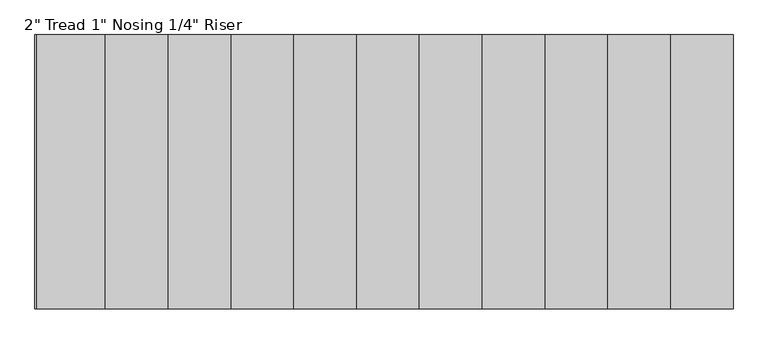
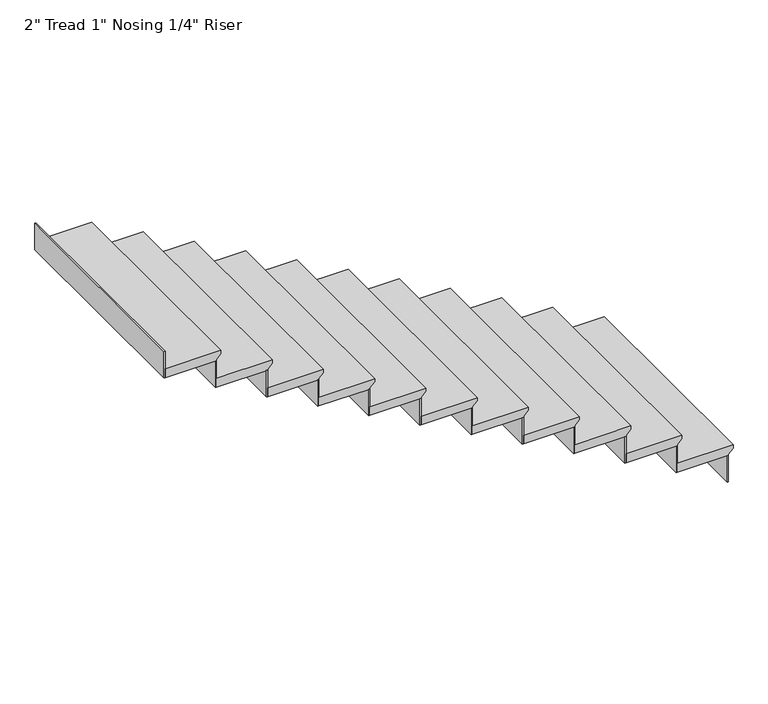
"""IFC4 building model written with IfcOpenShell, lengths in millimetres: stair flight geometry."""

import ifcopenshell
import ifcopenshell.guid

model = None  # the IFC model being written
_history = None  # IfcOwnerHistory: only IFC2X3 demands one
_inside = {}  # id of a spatial element -> (the spatial element, [elements in it])
_under = {}  # id of a project, library or spatial element -> (it, [spatial elements below it])
_declared = {}  # id of a project -> (the project, [libraries it declares])
_typed = {}  # id of a type object -> (the type object, [elements of that type])
_made_of = {}  # id of a material, layer set ... -> (it, [elements and type objects made of it])


def new_model(schema):
    """Start an empty IFC model of exactly this schema.

    Asked for "IFC4X3", IfcOpenShell would pick the latest addendum, in which some entities
    have other attributes; the version numbers below select the first issue.
    IFC2X3 requires an IfcOwnerHistory on every rooted entity: one is made here for all.
    """
    global model, _history
    if schema == "IFC4X3":
        model = ifcopenshell.file(schema_version=(4, 3, 0, 0))
    else:
        model = ifcopenshell.file(schema=schema)
    _inside.clear()
    _under.clear()
    _declared.clear()
    _typed.clear()
    _made_of.clear()
    _history = None
    if model.schema == "IFC2X3":
        org = make("IfcOrganization", Name="unknown")
        user = make(
            "IfcPersonAndOrganization",
            ThePerson=make("IfcPerson", FamilyName="unknown"),
            TheOrganization=org,
        )
        app = make(
            "IfcApplication",
            ApplicationDeveloper=org,
            Version="unknown",
            ApplicationFullName="unknown",
            ApplicationIdentifier="unknown",
        )
        _history = make(
            "IfcOwnerHistory",
            OwningUser=user,
            OwningApplication=app,
            ChangeAction="ADDED",
            CreationDate=0,
        )
    return model


def make(cls, **values):
    """One entity of the class cls with the attributes given. An attribute that is None is left unset."""
    return model.create_entity(
        cls, **{name: value for name, value in values.items() if value is not None}
    )


def rooted(cls, **values):
    """An entity with a GlobalId (a new one), such as an element, a storey or a relation."""
    return make(cls, GlobalId=ifcopenshell.guid.new(), OwnerHistory=_history, **values)


def si_unit(unit_type, name, prefix=None):
    """IfcSIUnit, for example si_unit("LENGTHUNIT", "METRE", prefix="MILLI")."""
    return make("IfcSIUnit", UnitType=unit_type, Prefix=prefix, Name=name)


def assignment(units):
    """IfcUnitAssignment: the units of a project."""
    return None if units is None else make("IfcUnitAssignment", Units=units)


def point(xyz):
    """IfcCartesianPoint."""
    return None if xyz is None else make("IfcCartesianPoint", Coordinates=xyz)


def direction(xyz):
    """IfcDirection."""
    return None if xyz is None else make("IfcDirection", DirectionRatios=xyz)


def frame(location, z_axis=None, x_axis=None):
    """IfcAxis2Placement3D, a coordinate frame: its origin and axes. An axis left out is left unset."""
    return make(
        "IfcAxis2Placement3D",
        Location=point(location),
        Axis=direction(z_axis),
        RefDirection=direction(x_axis),
    )


def origin():
    """The frame at (0, 0, 0) with its axes left unset."""
    return frame((0.0, 0.0, 0.0))


def place(relative_to, where):
    """IfcLocalPlacement: puts the frame where relative to a parent placement (None: the world)."""
    return make(
        "IfcLocalPlacement", PlacementRelTo=relative_to, RelativePlacement=where
    )


def context(
    kind, dimensions, precision=None, world=None, true_north=None, identifier=None
):
    """IfcGeometricRepresentationContext, for example the 3D "Model" context."""
    return make(
        "IfcGeometricRepresentationContext",
        ContextIdentifier=identifier,
        ContextType=kind,
        CoordinateSpaceDimension=dimensions,
        Precision=precision,
        WorldCoordinateSystem=world,
        TrueNorth=true_north,
    )


def project(units=None, contexts=None):
    """IfcProject with its units and contexts."""
    return rooted(
        "IfcProject",
        Name="project",
        RepresentationContexts=contexts,
        UnitsInContext=assignment(units),
    )


def spatial(cls, under=None, at=None, **own):
    """A site, building, storey or space (cls), placed at a placement, below another one or the project."""
    s = rooted(cls, ObjectPlacement=at, **own)
    if under is not None:
        _under.setdefault(under.id(), (under, []))[1].append(s)
    return s


def polyline(points):
    """IfcPolyline through the points."""
    return make("IfcPolyline", Points=[point(p) for p in points])


def outline(outer, holes=None, kind="AREA"):
    """IfcArbitraryClosedProfileDef: a profile drawn as a closed curve; with holes, ...WithVoids."""
    if holes is None:
        return make("IfcArbitraryClosedProfileDef", ProfileType=kind, OuterCurve=outer)
    return make(
        "IfcArbitraryProfileDefWithVoids",
        ProfileType=kind,
        OuterCurve=outer,
        InnerCurves=holes,
    )


def extrude(swept, where, along, depth):
    """IfcExtrudedAreaSolid: the profile swept, set in the frame where, extruded along a direction by depth."""
    return make(
        "IfcExtrudedAreaSolid",
        SweptArea=swept,
        Position=where,
        ExtrudedDirection=direction(along),
        Depth=depth,
    )


def shape(context_of_items, identifier, shape_type, items):
    """IfcShapeRepresentation: the items that make up one representation, for example the "Body"."""
    return make(
        "IfcShapeRepresentation",
        ContextOfItems=context_of_items,
        RepresentationIdentifier=identifier,
        RepresentationType=shape_type,
        Items=items,
    )


def source(mapping_origin, context_of_items, identifier, shape_type, items):
    """IfcRepresentationMap: a shape defined once, which mapped items show again and again."""
    return make(
        "IfcRepresentationMap",
        MappingOrigin=mapping_origin,
        MappedRepresentation=shape(context_of_items, identifier, shape_type, items),
    )


def transform(
    local_origin,
    x_axis=None,
    y_axis=None,
    z_axis=None,
    scale=None,
    scale2=None,
    scale3=None,
    uniform=True,
):
    """IfcCartesianTransformationOperator3D, or its non-uniform kind. x_axis, y_axis, z_axis: its Axis1, 2, 3."""
    if uniform:
        return make(
            "IfcCartesianTransformationOperator3D",
            Axis1=direction(x_axis),
            Axis2=direction(y_axis),
            LocalOrigin=point(local_origin),
            Scale=scale,
            Axis3=direction(z_axis),
        )
    return make(
        "IfcCartesianTransformationOperator3DnonUniform",
        Axis1=direction(x_axis),
        Axis2=direction(y_axis),
        LocalOrigin=point(local_origin),
        Scale=scale,
        Axis3=direction(z_axis),
        Scale2=scale2,
        Scale3=scale3,
    )


def mapped(mapping_source, mapping_target):
    """IfcMappedItem: shows the shape of a source again, moved by a transform."""
    return make(
        "IfcMappedItem", MappingSource=mapping_source, MappingTarget=mapping_target
    )


def made_of(thing, what):
    """Note that an element or type object is made of a material, layer set ...; save() writes the relation."""
    if what is not None:
        _made_of.setdefault(what.id(), (what, []))[1].append(thing)
    return thing


def element(
    cls,
    number,
    at=None,
    inside=None,
    cuts=None,
    type_object=None,
    material=None,
    context=None,
    identifier="Body",
    shape_type=None,
    held_by="IfcProductDefinitionShape",
    body=None,
    shapes=None,
    **own,
):
    """One element of the class cls, such as IfcWall. Its Tag is "e" and its number.

    at: its placement. inside: the storey or other place that contains it. cuts: it is an
    opening in that element (IfcRelVoidsElement). A single representation is given by context,
    identifier, shape_type and body (its items); several are given by shapes. held_by: the class
    of the entity that holds the representations. save() writes the other relations.
    """
    e = rooted(cls, Tag="e%d" % number, ObjectPlacement=at, **own)
    if body is not None:
        shapes = [shape(context, identifier, shape_type, body)]
    if shapes is not None:
        e.Representation = make(held_by, Representations=shapes)
    if inside is not None:
        _inside.setdefault(inside.id(), (inside, []))[1].append(e)
    if cuts is not None:
        rooted(
            "IfcRelVoidsElement", RelatingBuildingElement=cuts, RelatedOpeningElement=e
        )
    if type_object is not None:
        _typed.setdefault(type_object.id(), (type_object, []))[1].append(e)
    return made_of(e, material)


def aggregate(whole, parts):
    """IfcRelAggregates: a whole, such as a stair, and the parts it consists of."""
    return rooted("IfcRelAggregates", RelatingObject=whole, RelatedObjects=parts)


def save(model, path):
    """Write the relations noted so far, then the file.

    IfcRelAggregates (storeys below a building ...), IfcRelContainedInSpatialStructure (elements
    in a storey), IfcRelDefinesByType, IfcRelAssociatesMaterial and IfcRelDeclares: one each for
    every whole, place, type object, material and project.
    """
    for whole, parts in _under.values():
        aggregate(whole, parts)
    for where, things in _inside.values():
        rooted(
            "IfcRelContainedInSpatialStructure",
            RelatedElements=things,
            RelatingStructure=where,
        )
    for kind, things in _typed.values():
        rooted("IfcRelDefinesByType", RelatedObjects=things, RelatingType=kind)
    for what, things in _made_of.values():
        rooted("IfcRelAssociatesMaterial", RelatedObjects=things, RelatingMaterial=what)
    for by, libraries in _declared.values():
        rooted("IfcRelDeclares", RelatingContext=by, RelatedDefinitions=libraries)
    model.write(path)


def stair_flight_6e5383ca(model_context):
    return source(origin(), model_context, "Body", "SweptSolid", [
        extrude(outline(polyline([(2895.6, 18399.4726301), (2895.6, 18094.6726301), (2844.8, 18094.6726301), (2844.8, 18374.0726301), (2851.15, 18374.0726301), (2876.55, 18399.4726301), (2895.6, 18399.4726301)])), frame((0.0, 5008.3746638, 0.0), z_axis=(0.0, 1.0, 0.0), x_axis=(0.0, 0.0, 1.0)), (0.0, 0.0, 1.0), 1219.2),
        extrude(outline(polyline([(18367.7226301, 6227.5746638), (18374.0726301, 6227.5746638), (18374.0726301, 5008.3746638), (18367.7226301, 5008.3746638), (18367.7226301, 6227.5746638)])), frame((0.0, 0.0, 2692.4), z_axis=(0.0, 0.0, 1.0), x_axis=(1.0, 0.0, 0.0)), (0.0, 0.0, 1.0), 152.4),
        extrude(outline(polyline([(18088.3226301, 6227.5746638), (18094.6726301, 6227.5746638), (18094.6726301, 5008.3746638), (18088.3226301, 5008.3746638), (18088.3226301, 6227.5746638)])), frame((0.0, 0.0, 2844.8), z_axis=(0.0, 0.0, 1.0), x_axis=(1.0, 0.0, 0.0)), (0.0, 0.0, 1.0), 152.4),
        extrude(outline(polyline([(3048.0, 18120.0726301), (3048.0, 17815.2726301), (2997.2, 17815.2726301), (2997.2, 18094.6726301), (3003.55, 18094.6726301), (3028.95, 18120.0726301), (3048.0, 18120.0726301)])), frame((0.0, 5008.3746638, 0.0), z_axis=(0.0, 1.0, 0.0), x_axis=(0.0, 0.0, 1.0)), (0.0, 0.0, 1.0), 1219.2),
        extrude(outline(polyline([(17808.9226301, 6227.5746638), (17815.2726301, 6227.5746638), (17815.2726301, 5008.3746638), (17808.9226301, 5008.3746638), (17808.9226301, 6227.5746638)])), frame((0.0, 0.0, 2997.2), z_axis=(0.0, 0.0, 1.0), x_axis=(1.0, 0.0, 0.0)), (0.0, 0.0, 1.0), 152.4),
        extrude(outline(polyline([(3200.4, 17840.6726301), (3200.4, 17535.8726301), (3149.6, 17535.8726301), (3149.6, 17815.2726301), (3155.95, 17815.2726301), (3181.35, 17840.6726301), (3200.4, 17840.6726301)])), frame((0.0, 5008.3746638, 0.0), z_axis=(0.0, 1.0, 0.0), x_axis=(0.0, 0.0, 1.0)), (0.0, 0.0, 1.0), 1219.2),
        extrude(outline(polyline([(17529.5226301, 6227.5746638), (17535.8726301, 6227.5746638), (17535.8726301, 5008.3746638), (17529.5226301, 5008.3746638), (17529.5226301, 6227.5746638)])), frame((0.0, 0.0, 3149.6), z_axis=(0.0, 0.0, 1.0), x_axis=(1.0, 0.0, 0.0)), (0.0, 0.0, 1.0), 152.4),
        extrude(outline(polyline([(3352.8, 17561.2726301), (3352.8, 17256.4726301), (3302.0, 17256.4726301), (3302.0, 17535.8726301), (3308.35, 17535.8726301), (3333.75, 17561.2726301), (3352.8, 17561.2726301)])), frame((0.0, 5008.3746638, 0.0), z_axis=(0.0, 1.0, 0.0), x_axis=(0.0, 0.0, 1.0)), (0.0, 0.0, 1.0), 1219.2),
        extrude(outline(polyline([(17250.1226301, 6227.5746638), (17256.4726301, 6227.5746638), (17256.4726301, 5008.3746638), (17250.1226301, 5008.3746638), (17250.1226301, 6227.5746638)])), frame((0.0, 0.0, 3302.0), z_axis=(0.0, 0.0, 1.0), x_axis=(1.0, 0.0, 0.0)), (0.0, 0.0, 1.0), 152.4),
        extrude(outline(polyline([(3505.2, 17281.8726301), (3505.2, 16977.0726301), (3454.4, 16977.0726301), (3454.4, 17256.4726301), (3460.75, 17256.4726301), (3486.15, 17281.8726301), (3505.2, 17281.8726301)])), frame((0.0, 5008.3746638, 0.0), z_axis=(0.0, 1.0, 0.0), x_axis=(0.0, 0.0, 1.0)), (0.0, 0.0, 1.0), 1219.2),
        extrude(outline(polyline([(16970.7226301, 6227.5746638), (16977.0726301, 6227.5746638), (16977.0726301, 5008.3746638), (16970.7226301, 5008.3746638), (16970.7226301, 6227.5746638)])), frame((0.0, 0.0, 3454.4), z_axis=(0.0, 0.0, 1.0), x_axis=(1.0, 0.0, 0.0)), (0.0, 0.0, 1.0), 152.4),
        extrude(outline(polyline([(3657.6, 17002.4726301), (3657.6, 16697.6726301), (3606.8, 16697.6726301), (3606.8, 16977.0726301), (3613.15, 16977.0726301), (3638.55, 17002.4726301), (3657.6, 17002.4726301)])), frame((0.0, 5008.3746638, 0.0), z_axis=(0.0, 1.0, 0.0), x_axis=(0.0, 0.0, 1.0)), (0.0, 0.0, 1.0), 1219.2),
        extrude(outline(polyline([(16691.3226301, 6227.5746638), (16697.6726301, 6227.5746638), (16697.6726301, 5008.3746638), (16691.3226301, 5008.3746638), (16691.3226301, 6227.5746638)])), frame((0.0, 0.0, 3606.8), z_axis=(0.0, 0.0, 1.0), x_axis=(1.0, 0.0, 0.0)), (0.0, 0.0, 1.0), 152.4),
        extrude(outline(polyline([(3810.0, 16723.0726301), (3810.0, 16418.2726301), (3759.2, 16418.2726301), (3759.2, 16697.6726301), (3765.55, 16697.6726301), (3790.95, 16723.0726301), (3810.0, 16723.0726301)])), frame((0.0, 5008.3746638, 0.0), z_axis=(0.0, 1.0, 0.0), x_axis=(0.0, 0.0, 1.0)), (0.0, 0.0, 1.0), 1219.2),
        extrude(outline(polyline([(16411.9226301, 6227.5746638), (16418.2726301, 6227.5746638), (16418.2726301, 5008.3746638), (16411.9226301, 5008.3746638), (16411.9226301, 6227.5746638)])), frame((0.0, 0.0, 3759.2), z_axis=(0.0, 0.0, 1.0), x_axis=(1.0, 0.0, 0.0)), (0.0, 0.0, 1.0), 152.4),
        extrude(outline(polyline([(3962.4, 16443.6726301), (3962.4, 16138.8726301), (3911.6, 16138.8726301), (3911.6, 16418.2726301), (3917.95, 16418.2726301), (3943.35, 16443.6726301), (3962.4, 16443.6726301)])), frame((0.0, 5008.3746638, 0.0), z_axis=(0.0, 1.0, 0.0), x_axis=(0.0, 0.0, 1.0)), (0.0, 0.0, 1.0), 1219.2),
        extrude(outline(polyline([(16132.5226301, 6227.5746638), (16138.8726301, 6227.5746638), (16138.8726301, 5008.3746638), (16132.5226301, 5008.3746638), (16132.5226301, 6227.5746638)])), frame((0.0, 0.0, 3911.6), z_axis=(0.0, 0.0, 1.0), x_axis=(1.0, 0.0, 0.0)), (0.0, 0.0, 1.0), 152.4),
        extrude(outline(polyline([(4114.8, 16164.2726301), (4114.8, 15859.4726301), (4064.0, 15859.4726301), (4064.0, 16138.8726301), (4070.35, 16138.8726301), (4095.75, 16164.2726301), (4114.8, 16164.2726301)])), frame((0.0, 5008.3746638, 0.0), z_axis=(0.0, 1.0, 0.0), x_axis=(0.0, 0.0, 1.0)), (0.0, 0.0, 1.0), 1219.2),
        extrude(outline(polyline([(15853.1226301, 6227.5746638), (15859.4726301, 6227.5746638), (15859.4726301, 5008.3746638), (15853.1226301, 5008.3746638), (15853.1226301, 6227.5746638)])), frame((0.0, 0.0, 4064.0), z_axis=(0.0, 0.0, 1.0), x_axis=(1.0, 0.0, 0.0)), (0.0, 0.0, 1.0), 152.4),
        extrude(outline(polyline([(4267.2, 15884.8726301), (4267.2, 15580.0726301), (4216.4, 15580.0726301), (4216.4, 15859.4726301), (4222.75, 15859.4726301), (4248.15, 15884.8726301), (4267.2, 15884.8726301)])), frame((0.0, 5008.3746638, 0.0), z_axis=(0.0, 1.0, 0.0), x_axis=(0.0, 0.0, 1.0)), (0.0, 0.0, 1.0), 1219.2),
        extrude(outline(polyline([(15573.7226301, 6227.5746638), (15580.0726301, 6227.5746638), (15580.0726301, 5008.3746638), (15573.7226301, 5008.3746638), (15573.7226301, 6227.5746638)])), frame((0.0, 0.0, 4216.4), z_axis=(0.0, 0.0, 1.0), x_axis=(1.0, 0.0, 0.0)), (0.0, 0.0, 1.0), 152.4),
        extrude(outline(polyline([(15294.3226301, 6227.5746638), (15300.6726301, 6227.5746638), (15300.6726301, 5008.3746638), (15294.3226301, 5008.3746638), (15294.3226301, 6227.5746638)])), frame((0.0, 0.0, 4368.8), z_axis=(0.0, 0.0, 1.0), x_axis=(1.0, 0.0, 0.0)), (0.0, 0.0, 1.0), 152.4),
        extrude(outline(polyline([(4419.6, 15605.4726301), (4419.6, 15300.6726301), (4368.8, 15300.6726301), (4368.8, 15580.0726301), (4375.15, 15580.0726301), (4400.55, 15605.4726301), (4419.6, 15605.4726301)])), frame((0.0, 5008.3746638, 0.0), z_axis=(0.0, 1.0, 0.0), x_axis=(0.0, 0.0, 1.0)), (0.0, 0.0, 1.0), 1219.2),
    ])


if __name__ == "__main__":
    model = new_model("IFC4")
    model_context = context("Model", 3, world=origin())
    ifc_project = project(units=[si_unit("LENGTHUNIT", "METRE", prefix="MILLI")], contexts=[model_context])
    site = spatial("IfcSite", under=ifc_project)
    building = spatial("IfcBuilding", under=site)
    placement = place(None, origin())
    stair_flight_shape = stair_flight_6e5383ca(model_context)
    element("IfcStairFlight", 1, ObjectType="2\" Tread 1\" Nosing 1/4\" Riser", at=placement, inside=building, context=model_context, shape_type="MappedRepresentation", body=[
        mapped(stair_flight_shape, transform((0.0, 0.0, 0.0), x_axis=(1.0, 0.0, 0.0), y_axis=(0.0, 1.0, 0.0), z_axis=(0.0, 0.0, 1.0))),
    ])
    save(model, "model.ifc")
